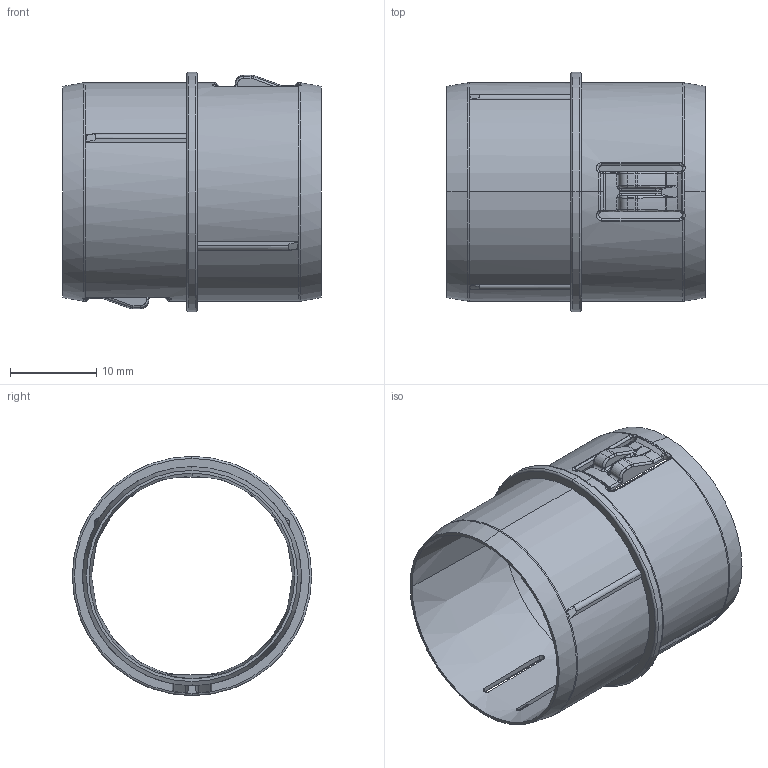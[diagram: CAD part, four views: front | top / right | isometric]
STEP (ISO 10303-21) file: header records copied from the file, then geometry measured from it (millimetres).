
FILE_DESCRIPTION (( 'STEP AP214' ), '1' );
FILE_NAME ('KP_CC-32.step', '2022-06-15T13:04:03', ( '' ), ( '' ), 'SwSTEP 2.0', 'SolidWorks 2022', '' );
FILE_SCHEMA (( 'AUTOMOTIVE_DESIGN' ));
Length unit declared in the file: millimetre
Products named in the file (1): KP_CC-32
Bounding box: 30 x 27.8 x 27.8 mm (x, y, z)
Volume: 2076.8 mm3; surface area: 4900.8 mm2
Topology: 1 solids, 1 shells, 299 faces, 739 edges, 436 vertices
Faces by surface type: bspline 124, cylinder 51, torus 42, cone 42, plane 32, sphere 8
Entity records: 10841 total; most frequent: CARTESIAN_POINT 4703, ORIENTED_EDGE 1470, DIRECTION 1057, EDGE_CURVE 735, AXIS2_PLACEMENT_3D 470, VERTEX_POINT 436, B_SPLINE_CURVE_WITH_KNOTS 316, EDGE_LOOP 307
